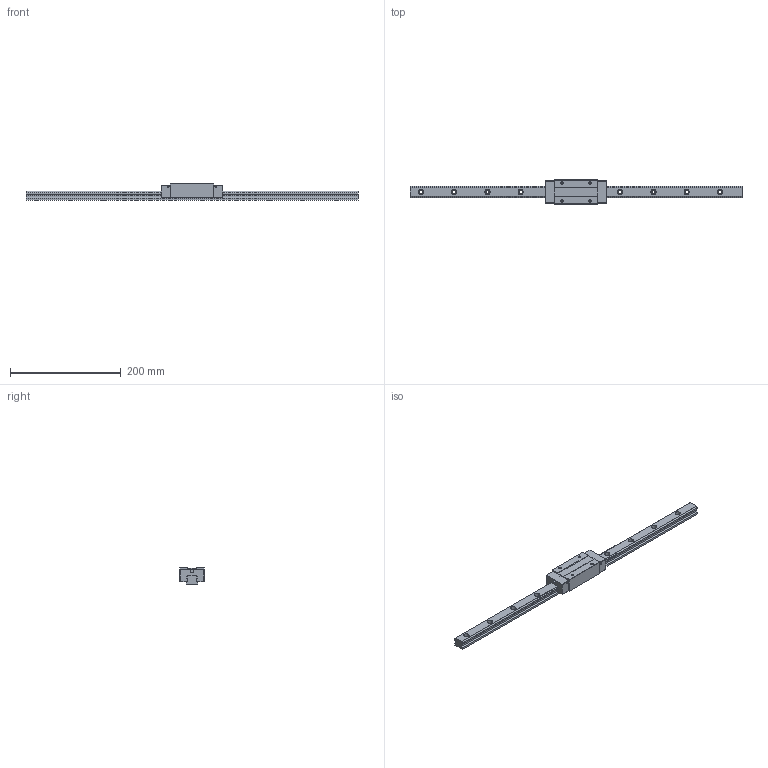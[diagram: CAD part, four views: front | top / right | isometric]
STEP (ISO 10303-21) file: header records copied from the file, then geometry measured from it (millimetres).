
FILE_DESCRIPTION (( 'STEP AP203' ), '1' );
FILE_NAME ('TRH20VE-WW.STEP', '2024-05-23T02:51:35', ( '' ), ( '' ), 'SwSTEP 2.0', 'SolidWorks 2022', '' );
FILE_SCHEMA (( 'CONFIG_CONTROL_DESIGN' ));
Length unit declared in the file: millimetre
Products named in the file (1): TRH20VE-WW
Bounding box: 600 x 44 x 30 mm (x, y, z)
Volume: 261473.2 mm3; surface area: 70100.5 mm2
Topology: 2 solids, 2 shells, 196 faces, 512 edges, 332 vertices
Faces by surface type: cylinder 96, plane 84, cone 16
Entity records: 6127 total; most frequent: DIRECTION 1098, CARTESIAN_POINT 1033, ORIENTED_EDGE 1008, EDGE_CURVE 504, AXIS2_PLACEMENT_3D 397, VERTEX_POINT 332, VECTOR 304, LINE 304
